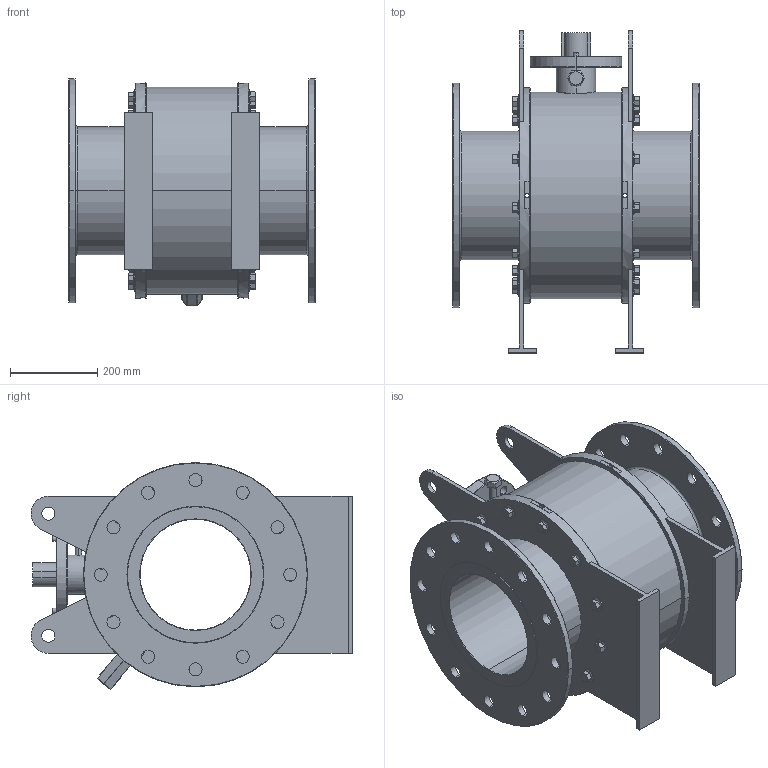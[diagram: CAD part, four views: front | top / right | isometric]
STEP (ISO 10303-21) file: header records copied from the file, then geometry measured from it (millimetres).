
FILE_DESCRIPTION (( 'STEP AP214' ), '1' );
FILE_NAME ('GB2_ANSI_300_10IN_TW.STEP', '2025-10-10T18:57:01', ( '' ), ( '' ), 'SwSTEP 2.0', 'SolidWorks 2025', '' );
FILE_SCHEMA (( 'AUTOMOTIVE_DESIGN' ));
Length unit declared in the file: millimetre
Products named in the file (3): GB2_ANSI_300_10IN_TW; hex flange screw_am_B18.2.3.4M - Hex flange screw, M16 x 2.0 x 25 --25N; GB2_ANSI_2500_1500_ANSI_300_10IN
Assembly tree (25 placements, depth 2):
  GB2_ANSI_300_10IN_TW
    GB2_ANSI_2500_1500_ANSI_300_10IN
    hex flange screw_am_B18.2.3.4M - Hex flange screw, M16 x 2.0 x 25 --25N  x24
Bounding box: 568 x 737.92 x 519.94 mm (x, y, z)
Volume: 46409398.3 mm3; surface area: 2685563.2 mm2
Topology: 25 solids, 25 shells, 1033 faces, 2302 edges, 1376 vertices
Faces by surface type: plane 325, cone 270, cylinder 222, bspline 156, torus 54, sphere 6
Entity records: 12656 total; most frequent: CARTESIAN_POINT 3656, DIRECTION 1966, ORIENTED_EDGE 1744, EDGE_CURVE 872, AXIS2_PLACEMENT_3D 796, VERTEX_POINT 546, EDGE_LOOP 476, CIRCLE 420
